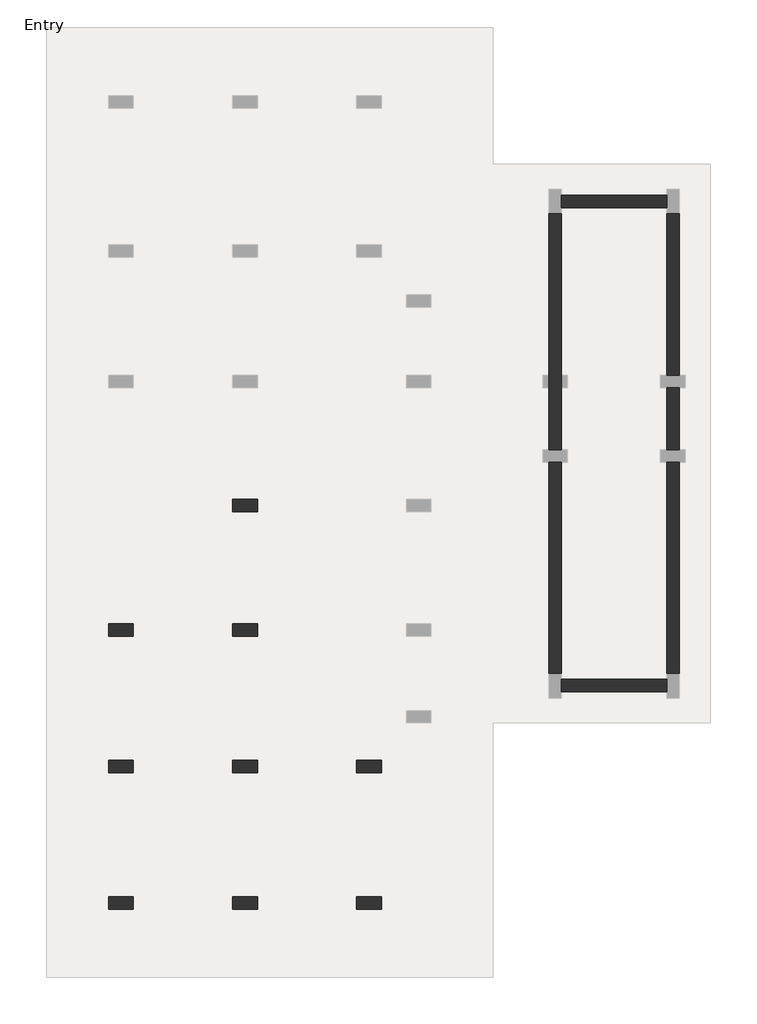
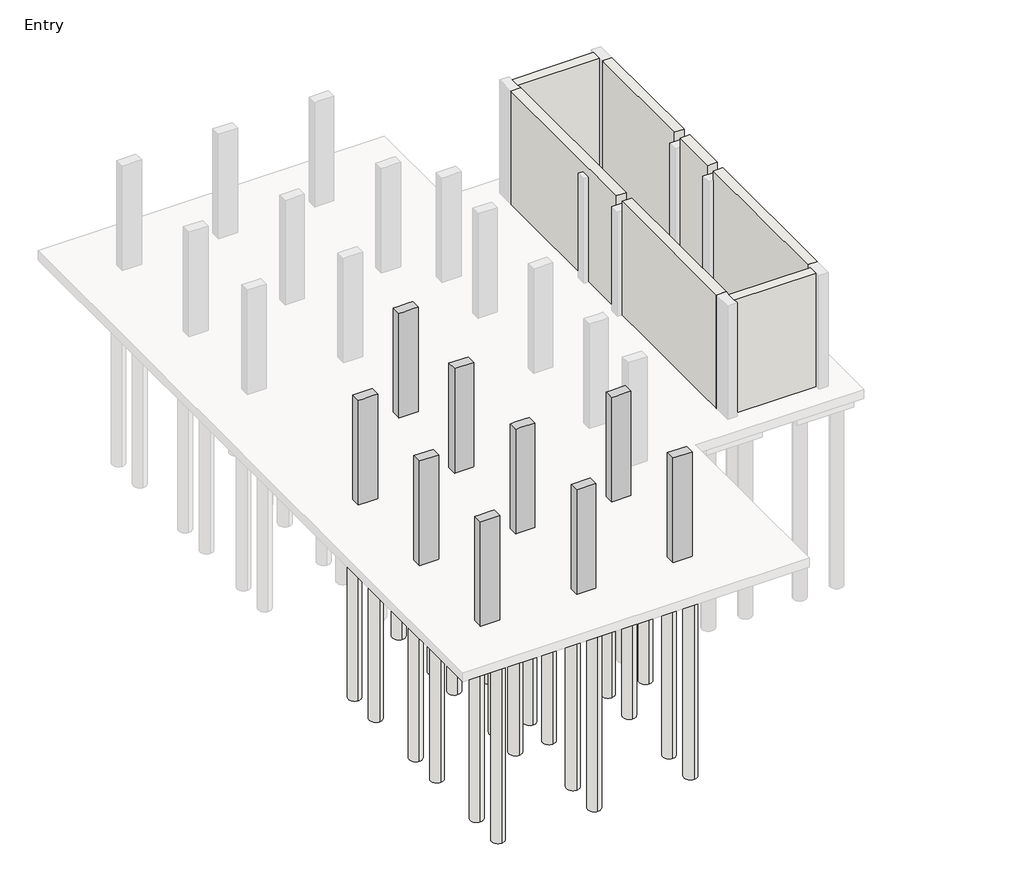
# One storey, part 1 of 3: 31 slabs, 9 columns, 7 walls.
"""IFC4 building model written with IfcOpenShell, lengths in millimetres."""

import ifcopenshell
import ifcopenshell.guid

model = None  # the IFC model being written
_history = None  # IfcOwnerHistory: only IFC2X3 demands one
_inside = {}  # id of a spatial element -> (the spatial element, [elements in it])
_under = {}  # id of a project, library or spatial element -> (it, [spatial elements below it])
_declared = {}  # id of a project -> (the project, [libraries it declares])
_typed = {}  # id of a type object -> (the type object, [elements of that type])
_made_of = {}  # id of a material, layer set ... -> (it, [elements and type objects made of it])


def new_model(schema):
    """Start an empty IFC model of exactly this schema.

    Asked for "IFC4X3", IfcOpenShell would pick the latest addendum, in which some entities
    have other attributes; the version numbers below select the first issue.
    IFC2X3 requires an IfcOwnerHistory on every rooted entity: one is made here for all.
    """
    global model, _history
    if schema == "IFC4X3":
        model = ifcopenshell.file(schema_version=(4, 3, 0, 0))
    else:
        model = ifcopenshell.file(schema=schema)
    _inside.clear()
    _under.clear()
    _declared.clear()
    _typed.clear()
    _made_of.clear()
    _history = None
    if model.schema == "IFC2X3":
        org = make("IfcOrganization", Name="unknown")
        user = make(
            "IfcPersonAndOrganization",
            ThePerson=make("IfcPerson", FamilyName="unknown"),
            TheOrganization=org,
        )
        app = make(
            "IfcApplication",
            ApplicationDeveloper=org,
            Version="unknown",
            ApplicationFullName="unknown",
            ApplicationIdentifier="unknown",
        )
        _history = make(
            "IfcOwnerHistory",
            OwningUser=user,
            OwningApplication=app,
            ChangeAction="ADDED",
            CreationDate=0,
        )
    return model


def make(cls, **values):
    """One entity of the class cls with the attributes given. An attribute that is None is left unset."""
    return model.create_entity(
        cls, **{name: value for name, value in values.items() if value is not None}
    )


def rooted(cls, **values):
    """An entity with a GlobalId (a new one), such as an element, a storey or a relation."""
    return make(cls, GlobalId=ifcopenshell.guid.new(), OwnerHistory=_history, **values)


def si_unit(unit_type, name, prefix=None):
    """IfcSIUnit, for example si_unit("LENGTHUNIT", "METRE", prefix="MILLI")."""
    return make("IfcSIUnit", UnitType=unit_type, Prefix=prefix, Name=name)


def assignment(units):
    """IfcUnitAssignment: the units of a project."""
    return None if units is None else make("IfcUnitAssignment", Units=units)


def point(xyz):
    """IfcCartesianPoint."""
    return None if xyz is None else make("IfcCartesianPoint", Coordinates=xyz)


def direction(xyz):
    """IfcDirection."""
    return None if xyz is None else make("IfcDirection", DirectionRatios=xyz)


def frame(location, z_axis=None, x_axis=None):
    """IfcAxis2Placement3D, a coordinate frame: its origin and axes. An axis left out is left unset."""
    return make(
        "IfcAxis2Placement3D",
        Location=point(location),
        Axis=direction(z_axis),
        RefDirection=direction(x_axis),
    )


def frame_2d(location, x_axis=None):
    """IfcAxis2Placement2D, a coordinate frame in the plane: its origin and x axis."""
    return make(
        "IfcAxis2Placement2D", Location=point(location), RefDirection=direction(x_axis)
    )


def origin():
    """The frame at (0, 0, 0) with its axes left unset."""
    return frame((0.0, 0.0, 0.0))


def origin_with_axes():
    """The frame at (0, 0, 0) with the z axis (0, 0, 1) and the x axis (1, 0, 0) written out."""
    return frame((0.0, 0.0, 0.0), z_axis=(0.0, 0.0, 1.0), x_axis=(1.0, 0.0, 0.0))


def place(relative_to, where):
    """IfcLocalPlacement: puts the frame where relative to a parent placement (None: the world)."""
    return make(
        "IfcLocalPlacement", PlacementRelTo=relative_to, RelativePlacement=where
    )


def context(
    kind, dimensions, precision=None, world=None, true_north=None, identifier=None
):
    """IfcGeometricRepresentationContext, for example the 3D "Model" context."""
    return make(
        "IfcGeometricRepresentationContext",
        ContextIdentifier=identifier,
        ContextType=kind,
        CoordinateSpaceDimension=dimensions,
        Precision=precision,
        WorldCoordinateSystem=world,
        TrueNorth=true_north,
    )


def project(units=None, contexts=None):
    """IfcProject with its units and contexts."""
    return rooted(
        "IfcProject",
        Name="project",
        RepresentationContexts=contexts,
        UnitsInContext=assignment(units),
    )


def spatial(cls, under=None, at=None, **own):
    """A site, building, storey or space (cls), placed at a placement, below another one or the project."""
    s = rooted(cls, ObjectPlacement=at, **own)
    if under is not None:
        _under.setdefault(under.id(), (under, []))[1].append(s)
    return s


def polyline(points):
    """IfcPolyline through the points."""
    return make("IfcPolyline", Points=[point(p) for p in points])


def circle_curve(where, radius):
    """IfcCircle in the frame where."""
    return make("IfcCircle", Position=where, Radius=radius)


def trimmed(basis, trim1, trim2, sense, master):
    """IfcTrimmedCurve: the piece of a basis curve between two trims."""
    return make(
        "IfcTrimmedCurve",
        BasisCurve=basis,
        Trim1=trim1,
        Trim2=trim2,
        SenseAgreement=sense,
        MasterRepresentation=master,
    )


def segment(curve, same_sense, transition):
    """IfcCompositeCurveSegment."""
    return make(
        "IfcCompositeCurveSegment",
        Transition=transition,
        SameSense=same_sense,
        ParentCurve=curve,
    )


def composite_curve(segments, self_intersect=None):
    """IfcCompositeCurve: segments joined end to end."""
    return make("IfcCompositeCurve", Segments=segments, SelfIntersect=self_intersect)


def outline(outer, holes=None, kind="AREA"):
    """IfcArbitraryClosedProfileDef: a profile drawn as a closed curve; with holes, ...WithVoids."""
    if holes is None:
        return make("IfcArbitraryClosedProfileDef", ProfileType=kind, OuterCurve=outer)
    return make(
        "IfcArbitraryProfileDefWithVoids",
        ProfileType=kind,
        OuterCurve=outer,
        InnerCurves=holes,
    )


def extrude(swept, where, along, depth):
    """IfcExtrudedAreaSolid: the profile swept, set in the frame where, extruded along a direction by depth."""
    return make(
        "IfcExtrudedAreaSolid",
        SweptArea=swept,
        Position=where,
        ExtrudedDirection=direction(along),
        Depth=depth,
    )


def faces_of(points, faces, orient=None, outer=None):
    """IfcFace entities. A face is a list of loops; a loop is a list of indices into points, from 0.

    orient and outer hold one flag for each loop. By default every Orientation is true, the
    first loop of a face is its IfcFaceOuterBound and the others are IfcFaceBound.
    """
    made = []
    for i, loops in enumerate(faces):
        bounds = []
        for j, loop in enumerate(loops):
            is_outer = j == 0 if outer is None else outer[i][j]
            bounds.append(
                make(
                    "IfcFaceOuterBound" if is_outer else "IfcFaceBound",
                    Bound=make("IfcPolyLoop", Polygon=[points[k] for k in loop]),
                    Orientation=True if orient is None else orient[i][j],
                )
            )
        made.append(make("IfcFace", Bounds=bounds))
    return made


def faceted_brep(points, faces, orient=None, outer=None, voids=None):
    """IfcFacetedBrep: a solid bounded by flat faces; with voids (closed shells), ...WithVoids."""
    shared = [point(p) for p in points]
    hull = make("IfcClosedShell", CfsFaces=faces_of(shared, faces, orient, outer))
    if voids is None:
        return make("IfcFacetedBrep", Outer=hull)
    return make(
        "IfcFacetedBrepWithVoids",
        Outer=hull,
        Voids=[
            make(cls, CfsFaces=faces_of(shared, fs, o, b)) for cls, fs, o, b in voids
        ],
    )


def shape(context_of_items, identifier, shape_type, items):
    """IfcShapeRepresentation: the items that make up one representation, for example the "Body"."""
    return make(
        "IfcShapeRepresentation",
        ContextOfItems=context_of_items,
        RepresentationIdentifier=identifier,
        RepresentationType=shape_type,
        Items=items,
    )


def made_of(thing, what):
    """Note that an element or type object is made of a material, layer set ...; save() writes the relation."""
    if what is not None:
        _made_of.setdefault(what.id(), (what, []))[1].append(thing)
    return thing


def element(
    cls,
    number,
    at=None,
    inside=None,
    cuts=None,
    type_object=None,
    material=None,
    context=None,
    identifier="Body",
    shape_type=None,
    held_by="IfcProductDefinitionShape",
    body=None,
    shapes=None,
    **own,
):
    """One element of the class cls, such as IfcWall. Its Tag is "e" and its number.

    at: its placement. inside: the storey or other place that contains it. cuts: it is an
    opening in that element (IfcRelVoidsElement). A single representation is given by context,
    identifier, shape_type and body (its items); several are given by shapes. held_by: the class
    of the entity that holds the representations. save() writes the other relations.
    """
    e = rooted(cls, Tag="e%d" % number, ObjectPlacement=at, **own)
    if body is not None:
        shapes = [shape(context, identifier, shape_type, body)]
    if shapes is not None:
        e.Representation = make(held_by, Representations=shapes)
    if inside is not None:
        _inside.setdefault(inside.id(), (inside, []))[1].append(e)
    if cuts is not None:
        rooted(
            "IfcRelVoidsElement", RelatingBuildingElement=cuts, RelatedOpeningElement=e
        )
    if type_object is not None:
        _typed.setdefault(type_object.id(), (type_object, []))[1].append(e)
    return made_of(e, material)


def aggregate(whole, parts):
    """IfcRelAggregates: a whole, such as a stair, and the parts it consists of."""
    return rooted("IfcRelAggregates", RelatingObject=whole, RelatedObjects=parts)


def save(model, path):
    """Write the relations noted so far, then the file.

    IfcRelAggregates (storeys below a building ...), IfcRelContainedInSpatialStructure (elements
    in a storey), IfcRelDefinesByType, IfcRelAssociatesMaterial and IfcRelDeclares: one each for
    every whole, place, type object, material and project.
    """
    for whole, parts in _under.values():
        aggregate(whole, parts)
    for where, things in _inside.values():
        rooted(
            "IfcRelContainedInSpatialStructure",
            RelatedElements=things,
            RelatingStructure=where,
        )
    for kind, things in _typed.values():
        rooted("IfcRelDefinesByType", RelatedObjects=things, RelatingType=kind)
    for what, things in _made_of.values():
        rooted("IfcRelAssociatesMaterial", RelatedObjects=things, RelatingMaterial=what)
    for by, libraries in _declared.values():
        rooted("IfcRelDeclares", RelatingContext=by, RelatedDefinitions=libraries)
    model.write(path)


model = new_model("IFC4")

# Units and contexts
model_context = context("Model", 3, world=origin())
ifc_project = project(units=[si_unit("LENGTHUNIT", "METRE", prefix="MILLI")], contexts=[model_context])

# Site, building, storey
site = spatial("IfcSite", under=ifc_project)
building = spatial("IfcBuilding", under=site)
storey = spatial("IfcBuildingStorey", under=building, Name="Entry", Elevation=0.0)

# Columns
placement = place(None, origin())
element("IfcColumn", 1, ObjectType="Concrete-Rectangular-Column : 12 x 24", at=placement, inside=storey, context=model_context, shape_type="Brep", body=[
    faceted_brep([(-10423.1073204, 13863.0572372, 0.0), (-9813.5073204, 13863.0572372, 0.0), (-9813.5073204, 13558.2572372, 0.0), (-10423.1073204, 13558.2572372, 0.0), (-10423.1073204, 13863.0572372, 3505.2), (-10270.7073204, 13863.0572372, 3505.2), (-9965.9073204, 13863.0572372, 3505.2), (-9813.5073204, 13863.0572372, 3505.2), (-9813.5073204, 13863.0572372, 2895.6), (-9813.5073204, 13558.2572372, 3505.2), (-9813.5073204, 13558.2572372, 2895.6), (-9965.9073204, 13558.2572372, 3505.2), (-10270.7073204, 13558.2572372, 3505.2), (-10423.1073204, 13558.2572372, 3505.2)], [[[0, 1, 2, 3]], [[4, 5, 6, 7, 8, 1, 0]], [[7, 9, 10, 2, 1, 8]], [[9, 11, 12, 13, 3, 2, 10]], [[13, 4, 0, 3]], [[4, 13, 12, 11, 9, 7, 6, 5]]]),
])
element("IfcColumn", 2, ObjectType="Concrete-Rectangular-Column : 12 x 24", at=placement, inside=storey, context=model_context, shape_type="Brep", body=[
    faceted_brep([(-13471.1073204, 10815.0572372, 0.0), (-12861.5073204, 10815.0572372, 0.0), (-12861.5073204, 10510.2572372, 0.0), (-13471.1073204, 10510.2572372, 0.0), (-13471.1073204, 10815.0572372, 3505.2), (-12861.5073204, 10815.0572372, 3505.2), (-12861.5073204, 10815.0572372, 2895.6), (-12861.5073204, 10510.2572372, 3505.2), (-12861.5073204, 10510.2572372, 2895.6), (-13013.9073204, 10510.2572372, 3505.2), (-13318.7073204, 10510.2572372, 3505.2), (-13471.1073204, 10510.2572372, 3505.2)], [[[0, 1, 2, 3]], [[4, 5, 6, 1, 0]], [[5, 7, 8, 2, 1, 6]], [[7, 9, 10, 11, 3, 2, 8]], [[11, 4, 0, 3]], [[4, 11, 10, 9, 7, 5]]]),
])
element("IfcColumn", 3, ObjectType="Concrete-Rectangular-Column : 12 x 24", at=placement, inside=storey, context=model_context, shape_type="Brep", body=[
    faceted_brep([(-10423.1073204, 10815.0572372, 0.0), (-9813.5073204, 10815.0572372, 0.0), (-9813.5073204, 10510.2572372, 0.0), (-10423.1073204, 10510.2572372, 0.0), (-10423.1073204, 10815.0572372, 3505.2), (-10270.7073204, 10815.0572372, 3505.2), (-9965.9073204, 10815.0572372, 3505.2), (-9813.5073204, 10815.0572372, 3505.2), (-9813.5073204, 10815.0572372, 2895.6), (-10423.1073204, 10815.0572372, 2895.6), (-9813.5073204, 10510.2572372, 3505.2), (-9813.5073204, 10510.2572372, 2895.6), (-9965.9073204, 10510.2572372, 3505.2), (-10270.7073204, 10510.2572372, 3505.2), (-10423.1073204, 10510.2572372, 3505.2), (-10423.1073204, 10510.2572372, 2895.6)], [[[0, 1, 2, 3]], [[4, 5, 6, 7, 8, 1, 0, 9]], [[7, 10, 11, 2, 1, 8]], [[10, 12, 13, 14, 15, 3, 2, 11]], [[14, 4, 9, 0, 3, 15]], [[4, 14, 13, 12, 10, 7, 6, 5]]]),
])
element("IfcColumn", 4, ObjectType="Concrete-Rectangular-Column : 12 x 24", at=placement, inside=storey, context=model_context, shape_type="Brep", body=[
    faceted_brep([(-7375.8500241, 7462.2572372, 0.0), (-6766.2500241, 7462.2572372, 0.0), (-6766.2500241, 7157.4572372, 0.0), (-7375.8500241, 7157.4572372, 0.0), (-7375.8500241, 7462.2572372, 3505.2), (-7223.4500241, 7462.2572372, 3505.2), (-6918.6500241, 7462.2572372, 3505.2), (-6766.2500241, 7462.2572372, 3505.2), (-7375.8500241, 7462.2572372, 2895.6), (-6766.2500241, 7157.4572372, 3505.2), (-6918.6500241, 7157.4572372, 3505.2), (-7223.4500241, 7157.4572372, 3505.2), (-7375.8500241, 7157.4572372, 3505.2), (-7375.8500241, 7157.4572372, 2895.6)], [[[0, 1, 2, 3]], [[4, 5, 6, 7, 1, 0, 8]], [[7, 9, 2, 1]], [[9, 10, 11, 12, 13, 3, 2]], [[12, 4, 8, 0, 3, 13]], [[4, 12, 11, 10, 9, 7, 6, 5]]]),
])
element("IfcColumn", 5, ObjectType="Concrete-Rectangular-Column : 12 x 24", at=placement, inside=storey, context=model_context, shape_type="Brep", body=[
    faceted_brep([(-10423.1073204, 7462.2572372, 0.0), (-9813.5073204, 7462.2572372, 0.0), (-9813.5073204, 7157.4572372, 0.0), (-10423.1073204, 7157.4572372, 0.0), (-10423.1073204, 7462.2572372, 3505.2), (-10270.7073204, 7462.2572372, 3505.2), (-9965.9073204, 7462.2572372, 3505.2), (-9813.5073204, 7462.2572372, 3505.2), (-9813.5073204, 7462.2572372, 2895.6), (-10423.1073204, 7462.2572372, 2895.6), (-9813.5073204, 7157.4572372, 3505.2), (-9813.5073204, 7157.4572372, 2895.6), (-9965.9073204, 7157.4572372, 3505.2), (-10270.7073204, 7157.4572372, 3505.2), (-10423.1073204, 7157.4572372, 3505.2), (-10423.1073204, 7157.4572372, 2895.6)], [[[0, 1, 2, 3]], [[4, 5, 6, 7, 8, 1, 0, 9]], [[7, 10, 11, 2, 1, 8]], [[10, 12, 13, 14, 15, 3, 2, 11]], [[14, 4, 9, 0, 3, 15]], [[4, 14, 13, 12, 10, 7, 6, 5]]]),
])
element("IfcColumn", 6, ObjectType="Concrete-Rectangular-Column : 12 x 24", at=placement, inside=storey, context=model_context, shape_type="Brep", body=[
    faceted_brep([(-13471.1073204, 7462.2572372, 0.0), (-12861.5073204, 7462.2572372, 0.0), (-12861.5073204, 7157.4572372, 0.0), (-13471.1073204, 7157.4572372, 0.0), (-13471.1073204, 7462.2572372, 3505.2), (-13318.7073204, 7462.2572372, 3505.2), (-13013.9073204, 7462.2572372, 3505.2), (-12861.5073204, 7462.2572372, 3505.2), (-12861.5073204, 7462.2572372, 2895.6), (-12861.5073204, 7157.4572372, 3505.2), (-12861.5073204, 7157.4572372, 2895.6), (-13013.9073204, 7157.4572372, 3505.2), (-13318.7073204, 7157.4572372, 3505.2), (-13471.1073204, 7157.4572372, 3505.2)], [[[0, 1, 2, 3]], [[4, 5, 6, 7, 8, 1, 0]], [[7, 9, 10, 2, 1, 8]], [[9, 11, 12, 13, 3, 2, 10]], [[13, 4, 0, 3]], [[4, 13, 12, 11, 9, 7, 6, 5]]]),
])
element("IfcColumn", 7, ObjectType="Concrete-Rectangular-Column : 12 x 24", at=placement, inside=storey, context=model_context, shape_type="Brep", body=[
    faceted_brep([(-13471.1073204, 4109.4572372, 0.0), (-12861.5073204, 4109.4572372, 0.0), (-12861.5073204, 3804.6572372, 0.0), (-13471.1073204, 3804.6572372, 0.0), (-13471.1073204, 4109.4572372, 3505.2), (-13318.7073204, 4109.4572372, 3505.2), (-13013.9073204, 4109.4572372, 3505.2), (-12861.5073204, 4109.4572372, 3505.2), (-12861.5073204, 4109.4572372, 2895.6), (-12861.5073204, 3804.6572372, 3505.2), (-12861.5073204, 3804.6572372, 2895.6), (-13471.1073204, 3804.6572372, 3505.2)], [[[0, 1, 2, 3]], [[4, 5, 6, 7, 8, 1, 0]], [[7, 9, 10, 2, 1, 8]], [[9, 11, 3, 2, 10]], [[11, 4, 0, 3]], [[4, 11, 9, 7, 6, 5]]]),
])
element("IfcColumn", 8, ObjectType="Concrete-Rectangular-Column : 12 x 24", at=placement, inside=storey, context=model_context, shape_type="Brep", body=[
    faceted_brep([(-10423.1073204, 4109.4572372, 0.0), (-9813.5073204, 4109.4572372, 0.0), (-9813.5073204, 3804.6572372, 0.0), (-10423.1073204, 3804.6572372, 0.0), (-10423.1073204, 4109.4572372, 3505.2), (-10270.7073204, 4109.4572372, 3505.2), (-9965.9073204, 4109.4572372, 3505.2), (-9813.5073204, 4109.4572372, 3505.2), (-9813.5073204, 4109.4572372, 2895.6), (-10423.1073204, 4109.4572372, 2895.6), (-9813.5073204, 3804.6572372, 3505.2), (-9813.5073204, 3804.6572372, 2895.6), (-10423.1073204, 3804.6572372, 3505.2), (-10423.1073204, 3804.6572372, 2895.6)], [[[0, 1, 2, 3]], [[4, 5, 6, 7, 8, 1, 0, 9]], [[7, 10, 11, 2, 1, 8]], [[10, 12, 13, 3, 2, 11]], [[12, 4, 9, 0, 3, 13]], [[4, 12, 10, 7, 6, 5]]]),
])
element("IfcColumn", 9, ObjectType="Concrete-Rectangular-Column : 12 x 24", at=placement, inside=storey, context=model_context, shape_type="Brep", body=[
    faceted_brep([(-7375.1073204, 4109.4572372, 0.0), (-6765.5073204, 4109.4572372, 0.0), (-6765.5073204, 3804.6572372, 0.0), (-7375.1073204, 3804.6572372, 0.0), (-7375.1073204, 4109.4572372, 3505.2), (-7223.4500241, 4109.4572372, 3505.2), (-6918.6500241, 4109.4572372, 3505.2), (-6765.5073204, 4109.4572372, 3505.2), (-7375.1073204, 4109.4572372, 2895.6), (-6765.5073204, 3804.6572372, 3505.2), (-7375.1073204, 3804.6572372, 3505.2), (-7375.1073204, 3804.6572372, 2895.6)], [[[0, 1, 2, 3]], [[4, 5, 6, 7, 1, 0, 8]], [[7, 9, 2, 1]], [[9, 10, 11, 3, 2]], [[10, 4, 8, 0, 3, 11]], [[4, 10, 9, 7, 6, 5]]]),
])

# Slabs
element("IfcSlab", 10, ObjectType="Pile Cap-2 Pile : 31\"x61\"x35\"", at=placement, inside=storey, context=model_context, shape_type="SweptSolid", body=[
    extrude(outline(polyline([(-13572.7073204, 11551.6572372), (-12759.9073204, 11551.6572372), (-12759.9073204, 9773.6572372), (-13572.7073204, 9773.6572372), (-13572.7073204, 11551.6572372)])), frame((0.0, 0.0, -889.0), z_axis=(0.0, 0.0, 1.0), x_axis=(1.0, 0.0, 0.0)), (0.0, 0.0, 1.0), 584.2),
])
element("IfcSlab", 11, ObjectType="Pile Cap-2 Pile : 31\"x61\"x35\"", at=placement, inside=storey, context=model_context, shape_type="SweptSolid", body=[
    extrude(outline(polyline([(-13572.7073204, 8198.8572372), (-12759.9073204, 8198.8572372), (-12759.9073204, 6420.8572372), (-13572.7073204, 6420.8572372), (-13572.7073204, 8198.8572372)])), frame((0.0, 0.0, -889.0), z_axis=(0.0, 0.0, 1.0), x_axis=(1.0, 0.0, 0.0)), (0.0, 0.0, 1.0), 584.2),
])
element("IfcSlab", 12, ObjectType="Pile Cap-2 Pile : 31\"x61\"x35\"", at=placement, inside=storey, context=model_context, shape_type="SweptSolid", body=[
    extrude(outline(polyline([(-13572.7073204, 4846.0572372), (-12759.9073204, 4846.0572372), (-12759.9073204, 3068.0572372), (-13572.7073204, 3068.0572372), (-13572.7073204, 4846.0572372)])), frame((0.0, 0.0, -889.0), z_axis=(0.0, 0.0, 1.0), x_axis=(1.0, 0.0, 0.0)), (0.0, 0.0, 1.0), 584.2),
])
element("IfcSlab", 13, ObjectType="Pile Cap-2 Pile : 31\"x61\"x35\"", at=placement, inside=storey, context=model_context, shape_type="SweptSolid", body=[
    extrude(outline(polyline([(-10524.7073204, 4846.0572372), (-9711.9073204, 4846.0572372), (-9711.9073204, 3068.0572372), (-10524.7073204, 3068.0572372), (-10524.7073204, 4846.0572372)])), frame((0.0, 0.0, -889.0), z_axis=(0.0, 0.0, 1.0), x_axis=(1.0, 0.0, 0.0)), (0.0, 0.0, 1.0), 584.2),
])
element("IfcSlab", 14, ObjectType="Pile Cap-2 Pile : 31\"x61\"x35\"", at=placement, inside=storey, context=model_context, shape_type="SweptSolid", body=[
    extrude(outline(polyline([(-7476.7073204, 4846.0572372), (-6663.9073204, 4846.0572372), (-6663.9073204, 3068.0572372), (-7476.7073204, 3068.0572372), (-7476.7073204, 4846.0572372)])), frame((0.0, 0.0, -889.0), z_axis=(0.0, 0.0, 1.0), x_axis=(1.0, 0.0, 0.0)), (0.0, 0.0, 1.0), 584.2),
])
element("IfcSlab", 15, ObjectType="Pile Cap-2 Pile : 31\"x61\"x35\"", at=placement, inside=storey, context=model_context, shape_type="SweptSolid", body=[
    extrude(outline(polyline([(-7477.4500241, 8198.8572372), (-6664.6500241, 8198.8572372), (-6664.6500241, 6420.8572372), (-7477.4500241, 6420.8572372), (-7477.4500241, 8198.8572372)])), frame((0.0, 0.0, -889.0), z_axis=(0.0, 0.0, 1.0), x_axis=(1.0, 0.0, 0.0)), (0.0, 0.0, 1.0), 584.2),
])
element("IfcSlab", 16, ObjectType="Pile Cap-4 Pile : 72\"x72\"x35\"", at=placement, inside=storey, context=model_context, shape_type="SweptSolid", body=[
    extrude(outline(polyline([(-11032.7073204, 14625.0572372), (-9203.9073204, 14625.0572372), (-9203.9073204, 12796.2572372), (-11032.7073204, 12796.2572372), (-11032.7073204, 14625.0572372)])), frame((0.0, 0.0, -889.0), z_axis=(0.0, 0.0, 1.0), x_axis=(1.0, 0.0, 0.0)), (0.0, 0.0, 1.0), 584.2),
])
element("IfcSlab", 17, ObjectType="Pile Cap-4 Pile : 72\"x72\"x35\"", at=placement, inside=storey, context=model_context, shape_type="SweptSolid", body=[
    extrude(outline(polyline([(-11032.7073204, 11577.0572372), (-9203.9073204, 11577.0572372), (-9203.9073204, 9748.2572372), (-11032.7073204, 9748.2572372), (-11032.7073204, 11577.0572372)])), frame((0.0, 0.0, -889.0), z_axis=(0.0, 0.0, 1.0), x_axis=(1.0, 0.0, 0.0)), (0.0, 0.0, 1.0), 584.2),
])
element("IfcSlab", 18, ObjectType="Pile Cap-4 Pile : 72\"x72\"x35\"", at=placement, inside=storey, context=model_context, shape_type="SweptSolid", body=[
    extrude(outline(polyline([(-11032.7073204, 8224.2572372), (-9203.9073204, 8224.2572372), (-9203.9073204, 6395.4572372), (-11032.7073204, 6395.4572372), (-11032.7073204, 8224.2572372)])), frame((0.0, 0.0, -889.0), z_axis=(0.0, 0.0, 1.0), x_axis=(1.0, 0.0, 0.0)), (0.0, 0.0, 1.0), 584.2),
])
element("IfcSlab", 19, ObjectType="Pile-Steel Pipe : 16\" Diameter", at=placement, inside=storey, context=model_context, shape_type="SweptSolid", body=[
    extrude(outline(composite_curve([segment(trimmed(circle_curve(frame_2d((-10651.7073204, 13177.2572372)), 203.2), [point((-10651.7073204, 12974.0572372))], [point((-10651.7073204, 13380.4572372))], False, "CARTESIAN"), True, "CONTINUOUS"), segment(trimmed(circle_curve(frame_2d((-10651.7073204, 13177.2572372)), 203.2), [point((-10651.7073204, 13380.4572372))], [point((-10651.7073204, 12974.0572372))], False, "CARTESIAN"), True, "CONTINUOUS")], self_intersect=False)), frame((0.0, 0.0, -6985.0), z_axis=(0.0, 0.0, 1.0), x_axis=(1.0, 0.0, 0.0)), (0.0, 0.0, 1.0), 6096.0),
])
element("IfcSlab", 20, ObjectType="Pile-Steel Pipe : 16\" Diameter", at=placement, inside=storey, context=model_context, shape_type="SweptSolid", body=[
    extrude(outline(composite_curve([segment(trimmed(circle_curve(frame_2d((-10651.7073204, 10129.2572372)), 203.2), [point((-10651.7073204, 9926.0572372))], [point((-10651.7073204, 10332.4572372))], False, "CARTESIAN"), True, "CONTINUOUS"), segment(trimmed(circle_curve(frame_2d((-10651.7073204, 10129.2572372)), 203.2), [point((-10651.7073204, 10332.4572372))], [point((-10651.7073204, 9926.0572372))], False, "CARTESIAN"), True, "CONTINUOUS")], self_intersect=False)), frame((0.0, 0.0, -6985.0), z_axis=(0.0, 0.0, 1.0), x_axis=(1.0, 0.0, 0.0)), (0.0, 0.0, 1.0), 6096.0),
])
element("IfcSlab", 21, ObjectType="Pile-Steel Pipe : 16\" Diameter", at=placement, inside=storey, context=model_context, shape_type="SweptSolid", body=[
    extrude(outline(composite_curve([segment(trimmed(circle_curve(frame_2d((-9584.9073204, 10129.2572372)), 203.2), [point((-9584.9073204, 9926.0572372))], [point((-9584.9073204, 10332.4572372))], False, "CARTESIAN"), True, "CONTINUOUS"), segment(trimmed(circle_curve(frame_2d((-9584.9073204, 10129.2572372)), 203.2), [point((-9584.9073204, 10332.4572372))], [point((-9584.9073204, 9926.0572372))], False, "CARTESIAN"), True, "CONTINUOUS")], self_intersect=False)), frame((0.0, 0.0, -6985.0), z_axis=(0.0, 0.0, 1.0), x_axis=(1.0, 0.0, 0.0)), (0.0, 0.0, 1.0), 6096.0),
])
element("IfcSlab", 22, ObjectType="Pile-Steel Pipe : 16\" Diameter", at=placement, inside=storey, context=model_context, shape_type="SweptSolid", body=[
    extrude(outline(composite_curve([segment(trimmed(circle_curve(frame_2d((-9584.9073204, 11196.0572372)), 203.2), [point((-9584.9073204, 10992.8572372))], [point((-9584.9073204, 11399.2572372))], False, "CARTESIAN"), True, "CONTINUOUS"), segment(trimmed(circle_curve(frame_2d((-9584.9073204, 11196.0572372)), 203.2), [point((-9584.9073204, 11399.2572372))], [point((-9584.9073204, 10992.8572372))], False, "CARTESIAN"), True, "CONTINUOUS")], self_intersect=False)), frame((0.0, 0.0, -6985.0), z_axis=(0.0, 0.0, 1.0), x_axis=(1.0, 0.0, 0.0)), (0.0, 0.0, 1.0), 6096.0),
])
element("IfcSlab", 23, ObjectType="Pile-Steel Pipe : 16\" Diameter", at=placement, inside=storey, context=model_context, shape_type="SweptSolid", body=[
    extrude(outline(composite_curve([segment(trimmed(circle_curve(frame_2d((-10651.7073204, 11196.0572372)), 203.2), [point((-10651.7073204, 10992.8572372))], [point((-10651.7073204, 11399.2572372))], False, "CARTESIAN"), True, "CONTINUOUS"), segment(trimmed(circle_curve(frame_2d((-10651.7073204, 11196.0572372)), 203.2), [point((-10651.7073204, 11399.2572372))], [point((-10651.7073204, 10992.8572372))], False, "CARTESIAN"), True, "CONTINUOUS")], self_intersect=False)), frame((0.0, 0.0, -6985.0), z_axis=(0.0, 0.0, 1.0), x_axis=(1.0, 0.0, 0.0)), (0.0, 0.0, 1.0), 6096.0),
])
element("IfcSlab", 24, ObjectType="Pile-Steel Pipe : 16\" Diameter", at=placement, inside=storey, context=model_context, shape_type="SweptSolid", body=[
    extrude(outline(composite_curve([segment(trimmed(circle_curve(frame_2d((-10651.7073204, 6776.4572372)), 203.2), [point((-10651.7073204, 6573.2572372))], [point((-10651.7073204, 6979.6572372))], False, "CARTESIAN"), True, "CONTINUOUS"), segment(trimmed(circle_curve(frame_2d((-10651.7073204, 6776.4572372)), 203.2), [point((-10651.7073204, 6979.6572372))], [point((-10651.7073204, 6573.2572372))], False, "CARTESIAN"), True, "CONTINUOUS")], self_intersect=False)), frame((0.0, 0.0, -6985.0), z_axis=(0.0, 0.0, 1.0), x_axis=(1.0, 0.0, 0.0)), (0.0, 0.0, 1.0), 6096.0),
])
element("IfcSlab", 25, ObjectType="Pile-Steel Pipe : 16\" Diameter", at=placement, inside=storey, context=model_context, shape_type="SweptSolid", body=[
    extrude(outline(composite_curve([segment(trimmed(circle_curve(frame_2d((-9584.9073204, 6776.4572372)), 203.2), [point((-9584.9073204, 6573.2572372))], [point((-9584.9073204, 6979.6572372))], False, "CARTESIAN"), True, "CONTINUOUS"), segment(trimmed(circle_curve(frame_2d((-9584.9073204, 6776.4572372)), 203.2), [point((-9584.9073204, 6979.6572372))], [point((-9584.9073204, 6573.2572372))], False, "CARTESIAN"), True, "CONTINUOUS")], self_intersect=False)), frame((0.0, 0.0, -6985.0), z_axis=(0.0, 0.0, 1.0), x_axis=(1.0, 0.0, 0.0)), (0.0, 0.0, 1.0), 6096.0),
])
element("IfcSlab", 26, ObjectType="Pile-Steel Pipe : 16\" Diameter", at=placement, inside=storey, context=model_context, shape_type="SweptSolid", body=[
    extrude(outline(composite_curve([segment(trimmed(circle_curve(frame_2d((-9584.9073204, 7843.2572372)), 203.2), [point((-9584.9073204, 7640.0572372))], [point((-9584.9073204, 8046.4572372))], False, "CARTESIAN"), True, "CONTINUOUS"), segment(trimmed(circle_curve(frame_2d((-9584.9073204, 7843.2572372)), 203.2), [point((-9584.9073204, 8046.4572372))], [point((-9584.9073204, 7640.0572372))], False, "CARTESIAN"), True, "CONTINUOUS")], self_intersect=False)), frame((0.0, 0.0, -6985.0), z_axis=(0.0, 0.0, 1.0), x_axis=(1.0, 0.0, 0.0)), (0.0, 0.0, 1.0), 6096.0),
])
element("IfcSlab", 27, ObjectType="Pile-Steel Pipe : 16\" Diameter", at=placement, inside=storey, context=model_context, shape_type="SweptSolid", body=[
    extrude(outline(composite_curve([segment(trimmed(circle_curve(frame_2d((-10651.7073204, 7843.2572372)), 203.2), [point((-10651.7073204, 7640.0572372))], [point((-10651.7073204, 8046.4572372))], False, "CARTESIAN"), True, "CONTINUOUS"), segment(trimmed(circle_curve(frame_2d((-10651.7073204, 7843.2572372)), 203.2), [point((-10651.7073204, 8046.4572372))], [point((-10651.7073204, 7640.0572372))], False, "CARTESIAN"), True, "CONTINUOUS")], self_intersect=False)), frame((0.0, 0.0, -6985.0), z_axis=(0.0, 0.0, 1.0), x_axis=(1.0, 0.0, 0.0)), (0.0, 0.0, 1.0), 6096.0),
])
element("IfcSlab", 28, ObjectType="Pile-Steel Pipe : 16\" Diameter", at=placement, inside=storey, context=model_context, shape_type="SweptSolid", body=[
    extrude(outline(composite_curve([segment(trimmed(circle_curve(frame_2d((-13166.3073204, 10078.4572372)), 203.2), [point((-13166.3073204, 9875.2572372))], [point((-13166.3073204, 10281.6572372))], False, "CARTESIAN"), True, "CONTINUOUS"), segment(trimmed(circle_curve(frame_2d((-13166.3073204, 10078.4572372)), 203.2), [point((-13166.3073204, 10281.6572372))], [point((-13166.3073204, 9875.2572372))], False, "CARTESIAN"), True, "CONTINUOUS")], self_intersect=False)), frame((0.0, 0.0, -6985.0), z_axis=(0.0, 0.0, 1.0), x_axis=(1.0, 0.0, 0.0)), (0.0, 0.0, 1.0), 6096.0),
])
element("IfcSlab", 29, ObjectType="Pile-Steel Pipe : 16\" Diameter", at=placement, inside=storey, context=model_context, shape_type="SweptSolid", body=[
    extrude(outline(composite_curve([segment(trimmed(circle_curve(frame_2d((-13166.3073204, 11246.8572372)), 203.2), [point((-13166.3073204, 11043.6572372))], [point((-13166.3073204, 11450.0572372))], False, "CARTESIAN"), True, "CONTINUOUS"), segment(trimmed(circle_curve(frame_2d((-13166.3073204, 11246.8572372)), 203.2), [point((-13166.3073204, 11450.0572372))], [point((-13166.3073204, 11043.6572372))], False, "CARTESIAN"), True, "CONTINUOUS")], self_intersect=False)), frame((0.0, 0.0, -6985.0), z_axis=(0.0, 0.0, 1.0), x_axis=(1.0, 0.0, 0.0)), (0.0, 0.0, 1.0), 6096.0),
])
element("IfcSlab", 30, ObjectType="Pile-Steel Pipe : 16\" Diameter", at=placement, inside=storey, context=model_context, shape_type="SweptSolid", body=[
    extrude(outline(composite_curve([segment(trimmed(circle_curve(frame_2d((-13166.3073204, 6725.6572372)), 203.2), [point((-13166.3073204, 6522.4572372))], [point((-13166.3073204, 6928.8572372))], False, "CARTESIAN"), True, "CONTINUOUS"), segment(trimmed(circle_curve(frame_2d((-13166.3073204, 6725.6572372)), 203.2), [point((-13166.3073204, 6928.8572372))], [point((-13166.3073204, 6522.4572372))], False, "CARTESIAN"), True, "CONTINUOUS")], self_intersect=False)), frame((0.0, 0.0, -6985.0), z_axis=(0.0, 0.0, 1.0), x_axis=(1.0, 0.0, 0.0)), (0.0, 0.0, 1.0), 6096.0),
])
element("IfcSlab", 31, ObjectType="Pile-Steel Pipe : 16\" Diameter", at=placement, inside=storey, context=model_context, shape_type="SweptSolid", body=[
    extrude(outline(composite_curve([segment(trimmed(circle_curve(frame_2d((-13166.3073204, 7894.0572372)), 203.2), [point((-13166.3073204, 7690.8572372))], [point((-13166.3073204, 8097.2572372))], False, "CARTESIAN"), True, "CONTINUOUS"), segment(trimmed(circle_curve(frame_2d((-13166.3073204, 7894.0572372)), 203.2), [point((-13166.3073204, 8097.2572372))], [point((-13166.3073204, 7690.8572372))], False, "CARTESIAN"), True, "CONTINUOUS")], self_intersect=False)), frame((0.0, 0.0, -6985.0), z_axis=(0.0, 0.0, 1.0), x_axis=(1.0, 0.0, 0.0)), (0.0, 0.0, 1.0), 6096.0),
])
element("IfcSlab", 32, ObjectType="Pile-Steel Pipe : 16\" Diameter", at=placement, inside=storey, context=model_context, shape_type="SweptSolid", body=[
    extrude(outline(composite_curve([segment(trimmed(circle_curve(frame_2d((-13166.3073204, 3372.8572372)), 203.2), [point((-13166.3073204, 3169.6572372))], [point((-13166.3073204, 3576.0572372))], False, "CARTESIAN"), True, "CONTINUOUS"), segment(trimmed(circle_curve(frame_2d((-13166.3073204, 3372.8572372)), 203.2), [point((-13166.3073204, 3576.0572372))], [point((-13166.3073204, 3169.6572372))], False, "CARTESIAN"), True, "CONTINUOUS")], self_intersect=False)), frame((0.0, 0.0, -6985.0), z_axis=(0.0, 0.0, 1.0), x_axis=(1.0, 0.0, 0.0)), (0.0, 0.0, 1.0), 6096.0),
])
element("IfcSlab", 33, ObjectType="Pile-Steel Pipe : 16\" Diameter", at=placement, inside=storey, context=model_context, shape_type="SweptSolid", body=[
    extrude(outline(composite_curve([segment(trimmed(circle_curve(frame_2d((-13166.3073204, 4541.2572372)), 203.2), [point((-13166.3073204, 4338.0572372))], [point((-13166.3073204, 4744.4572372))], False, "CARTESIAN"), True, "CONTINUOUS"), segment(trimmed(circle_curve(frame_2d((-13166.3073204, 4541.2572372)), 203.2), [point((-13166.3073204, 4744.4572372))], [point((-13166.3073204, 4338.0572372))], False, "CARTESIAN"), True, "CONTINUOUS")], self_intersect=False)), frame((0.0, 0.0, -6985.0), z_axis=(0.0, 0.0, 1.0), x_axis=(1.0, 0.0, 0.0)), (0.0, 0.0, 1.0), 6096.0),
])
element("IfcSlab", 34, ObjectType="Pile-Steel Pipe : 16\" Diameter", at=placement, inside=storey, context=model_context, shape_type="SweptSolid", body=[
    extrude(outline(composite_curve([segment(trimmed(circle_curve(frame_2d((-10118.3073204, 3372.8572372)), 203.2), [point((-10118.3073204, 3169.6572372))], [point((-10118.3073204, 3576.0572372))], False, "CARTESIAN"), True, "CONTINUOUS"), segment(trimmed(circle_curve(frame_2d((-10118.3073204, 3372.8572372)), 203.2), [point((-10118.3073204, 3576.0572372))], [point((-10118.3073204, 3169.6572372))], False, "CARTESIAN"), True, "CONTINUOUS")], self_intersect=False)), frame((0.0, 0.0, -6985.0), z_axis=(0.0, 0.0, 1.0), x_axis=(1.0, 0.0, 0.0)), (0.0, 0.0, 1.0), 6096.0),
])
element("IfcSlab", 35, ObjectType="Pile-Steel Pipe : 16\" Diameter", at=placement, inside=storey, context=model_context, shape_type="SweptSolid", body=[
    extrude(outline(composite_curve([segment(trimmed(circle_curve(frame_2d((-10118.3073204, 4541.2572372)), 203.2), [point((-10118.3073204, 4338.0572372))], [point((-10118.3073204, 4744.4572372))], False, "CARTESIAN"), True, "CONTINUOUS"), segment(trimmed(circle_curve(frame_2d((-10118.3073204, 4541.2572372)), 203.2), [point((-10118.3073204, 4744.4572372))], [point((-10118.3073204, 4338.0572372))], False, "CARTESIAN"), True, "CONTINUOUS")], self_intersect=False)), frame((0.0, 0.0, -6985.0), z_axis=(0.0, 0.0, 1.0), x_axis=(1.0, 0.0, 0.0)), (0.0, 0.0, 1.0), 6096.0),
])
element("IfcSlab", 36, ObjectType="Pile-Steel Pipe : 16\" Diameter", at=placement, inside=storey, context=model_context, shape_type="SweptSolid", body=[
    extrude(outline(composite_curve([segment(trimmed(circle_curve(frame_2d((-7070.3073204, 3372.8572372)), 203.2), [point((-7070.3073204, 3169.6572372))], [point((-7070.3073204, 3576.0572372))], False, "CARTESIAN"), True, "CONTINUOUS"), segment(trimmed(circle_curve(frame_2d((-7070.3073204, 3372.8572372)), 203.2), [point((-7070.3073204, 3576.0572372))], [point((-7070.3073204, 3169.6572372))], False, "CARTESIAN"), True, "CONTINUOUS")], self_intersect=False)), frame((0.0, 0.0, -6985.0), z_axis=(0.0, 0.0, 1.0), x_axis=(1.0, 0.0, 0.0)), (0.0, 0.0, 1.0), 6096.0),
])
element("IfcSlab", 37, ObjectType="Pile-Steel Pipe : 16\" Diameter", at=placement, inside=storey, context=model_context, shape_type="SweptSolid", body=[
    extrude(outline(composite_curve([segment(trimmed(circle_curve(frame_2d((-7070.3073204, 4541.2572372)), 203.2), [point((-7070.3073204, 4338.0572372))], [point((-7070.3073204, 4744.4572372))], False, "CARTESIAN"), True, "CONTINUOUS"), segment(trimmed(circle_curve(frame_2d((-7070.3073204, 4541.2572372)), 203.2), [point((-7070.3073204, 4744.4572372))], [point((-7070.3073204, 4338.0572372))], False, "CARTESIAN"), True, "CONTINUOUS")], self_intersect=False)), frame((0.0, 0.0, -6985.0), z_axis=(0.0, 0.0, 1.0), x_axis=(1.0, 0.0, 0.0)), (0.0, 0.0, 1.0), 6096.0),
])
element("IfcSlab", 38, ObjectType="Pile-Steel Pipe : 16\" Diameter", at=placement, inside=storey, context=model_context, shape_type="SweptSolid", body=[
    extrude(outline(composite_curve([segment(trimmed(circle_curve(frame_2d((-7071.0500241, 6725.6572372)), 203.2), [point((-7071.0500241, 6522.4572372))], [point((-7071.0500241, 6928.8572372))], False, "CARTESIAN"), True, "CONTINUOUS"), segment(trimmed(circle_curve(frame_2d((-7071.0500241, 6725.6572372)), 203.2), [point((-7071.0500241, 6928.8572372))], [point((-7071.0500241, 6522.4572372))], False, "CARTESIAN"), True, "CONTINUOUS")], self_intersect=False)), frame((0.0, 0.0, -6985.0), z_axis=(0.0, 0.0, 1.0), x_axis=(1.0, 0.0, 0.0)), (0.0, 0.0, 1.0), 6096.0),
])
element("IfcSlab", 39, ObjectType="Pile-Steel Pipe : 16\" Diameter", at=placement, inside=storey, context=model_context, shape_type="SweptSolid", body=[
    extrude(outline(composite_curve([segment(trimmed(circle_curve(frame_2d((-7071.0500241, 7894.0572372)), 203.2), [point((-7071.0500241, 7690.8572372))], [point((-7071.0500241, 8097.2572372))], False, "CARTESIAN"), True, "CONTINUOUS"), segment(trimmed(circle_curve(frame_2d((-7071.0500241, 7894.0572372)), 203.2), [point((-7071.0500241, 8097.2572372))], [point((-7071.0500241, 7690.8572372))], False, "CARTESIAN"), True, "CONTINUOUS")], self_intersect=False)), frame((0.0, 0.0, -6985.0), z_axis=(0.0, 0.0, 1.0), x_axis=(1.0, 0.0, 0.0)), (0.0, 0.0, 1.0), 6096.0),
])
element("IfcSlab", 40, ObjectType="Pile-Steel Pipe : 16\" Diameter", at=placement, inside=storey, context=model_context, shape_type="SweptSolid", body=[
    extrude(outline(composite_curve([segment(trimmed(circle_curve(frame_2d((-5851.8500241, 7944.8572372)), 203.2), [point((-5851.8500241, 7741.6572372))], [point((-5851.8500241, 8148.0572372))], False, "CARTESIAN"), True, "CONTINUOUS"), segment(trimmed(circle_curve(frame_2d((-5851.8500241, 7944.8572372)), 203.2), [point((-5851.8500241, 8148.0572372))], [point((-5851.8500241, 7741.6572372))], False, "CARTESIAN"), True, "CONTINUOUS")], self_intersect=False)), frame((0.0, 0.0, -6985.0), z_axis=(0.0, 0.0, 1.0), x_axis=(1.0, 0.0, 0.0)), (0.0, 0.0, 1.0), 6096.0),
])

# Walls
element("IfcWall", 41, ObjectType="Core-Shaft - 12\" Concrete", at=placement, inside=storey, context=model_context, shape_type="SweptSolid", body=[
    extrude(outline(polyline([(242.3860546, 21025.8572372), (-2346.6500241, 21025.8572372), (-2346.6500241, 21330.6572372), (242.3860546, 21330.6572372), (242.3860546, 21025.8572372)])), origin_with_axes(), (0.0, 0.0, 1.0), 3810.0),
])
element("IfcWall", 42, ObjectType="Core-Shaft - 12\" Concrete", at=placement, inside=storey, context=model_context, shape_type="SweptSolid", body=[
    extrude(outline(polyline([(242.3860546, 16911.0572372), (242.3860546, 20873.4572372), (547.1860546, 20873.4572372), (547.1860546, 16911.0572372), (242.3860546, 16911.0572372)])), origin_with_axes(), (0.0, 0.0, 1.0), 3810.0),
])
element("IfcWall", 43, ObjectType="Core-Shaft - 12\" Concrete", at=placement, inside=storey, context=model_context, shape_type="SweptSolid", body=[
    extrude(outline(polyline([(242.3860546, 15082.2572372), (242.3860546, 16606.2572372), (547.1860546, 16606.2572372), (547.1860546, 15082.2572372), (242.3860546, 15082.2572372)])), origin_with_axes(), (0.0, 0.0, 1.0), 3810.0),
])
element("IfcWall", 44, ObjectType="Core-Shaft - 12\" Concrete", at=placement, inside=storey, context=model_context, shape_type="SweptSolid", body=[
    extrude(outline(polyline([(242.3860546, 9595.8572372), (242.3860546, 14777.4572372), (547.1860546, 14777.4572372), (547.1860546, 9595.8572372), (242.3860546, 9595.8572372)])), origin_with_axes(), (0.0, 0.0, 1.0), 3810.0),
])
element("IfcWall", 45, ObjectType="Core-Shaft - 12\" Concrete", at=placement, inside=storey, context=model_context, shape_type="SweptSolid", body=[
    extrude(outline(polyline([(-2346.6500241, 9443.4572372), (242.3860546, 9443.4572372), (242.3860546, 9138.6572372), (-2346.6500241, 9138.6572372), (-2346.6500241, 9443.4572372)])), origin_with_axes(), (0.0, 0.0, 1.0), 3810.0),
])
element("IfcWall", 46, ObjectType="Core-Shaft - 12\" Concrete", at=placement, inside=storey, context=model_context, shape_type="SweptSolid", body=[
    extrude(outline(polyline([(-2346.6500241, 14777.4572372), (-2346.6500241, 9595.8572372), (-2651.4500241, 9595.8572372), (-2651.4500241, 14777.4572372), (-2346.6500241, 14777.4572372)])), origin_with_axes(), (0.0, 0.0, 1.0), 3810.0),
])
element("IfcWall", 47, ObjectType="Core-Shaft - 12\" Concrete", at=placement, inside=storey, context=model_context, shape_type="Brep", body=[
    faceted_brep([(-2346.6500241, 15082.2572372, 0.0), (-2346.6500241, 16606.2572372, 0.0), (-2346.6500241, 16911.0572372, 0.0), (-2346.6500241, 20873.4572372, 0.0), (-2346.6500241, 20873.4572372, 3810.0), (-2346.6500241, 15082.2572372, 3810.0), (-2651.4500241, 15082.2572372, 0.0), (-2651.4500241, 15082.2572372, 3810.0), (-2651.4500241, 20873.4572372, 3810.0), (-2651.4500241, 20873.4572372, 0.0), (-2651.4500241, 16911.0572372, 0.0), (-2651.4500241, 16606.2572372, 0.0)], [[[0, 1, 2, 3, 4, 5]], [[6, 7, 8, 9, 10, 11]], [[3, 2, 1, 0, 6, 11, 10, 9]], [[4, 3, 9, 8]], [[5, 4, 8, 7]], [[0, 5, 7, 6]]]),
])

save(model, "model.ifc")
